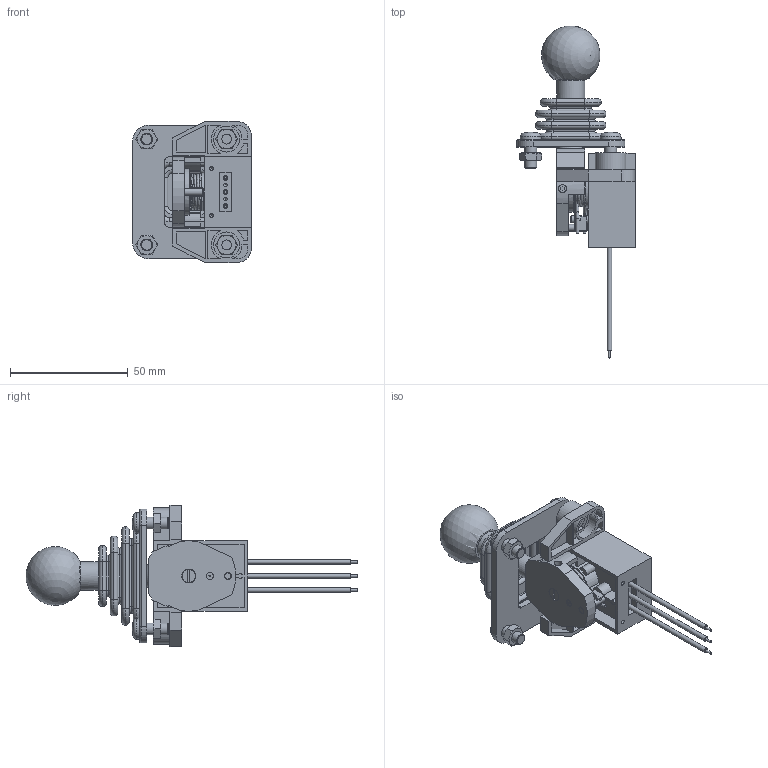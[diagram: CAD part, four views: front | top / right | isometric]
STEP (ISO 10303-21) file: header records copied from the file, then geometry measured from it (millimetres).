
FILE_DESCRIPTION (( 'STEP AP214' ), '1' );
FILE_NAME ('MEGATRON 30JLK-XI-10R1GR.STEP', '2019-06-24T05:29:20', ( '' ), ( '' ), 'SwSTEP 2.0', 'SolidWorks 2018', '' );
FILE_SCHEMA (( 'AUTOMOTIVE_DESIGN' ));
Length unit declared in the file: millimetre
Products named in the file (1): MEGATRON 30JLK-XI-10R1GR
Bounding box: 50.5 x 141.26 x 60 mm (x, y, z)
Volume: 41408.2 mm3; surface area: 43990.9 mm2
Topology: 5 solids, 47 shells, 1739 faces, 4236 edges, 2682 vertices
Faces by surface type: plane 1027, cylinder 441, torus 149, cone 112, sphere 9, bspline 1
Full cylindrical faces by diameter (mm): 0.8 x1, 1 x3, 1.198 x2, 1.2 x12, 1.6 x3, 2 x8, 2.1 x7, 2.3 x4, 2.9 x1, 2.98 x2, 3 x1, 3.1 x1, 3.4 x2, 4.2 x2, 5 x7, 5.1 x2, 5.5 x7, 5.9 x1, 6 x4, 6.2 x1, 7 x1, 7.5 x1, 9 x2, 9.6 x1, 11 x2, 12 x3, 13 x2, 16 x1, 17 x1
Entity records: 51231 total; most frequent: CARTESIAN_POINT 10378, DIRECTION 8874, ORIENTED_EDGE 8054, EDGE_CURVE 4027, AXIS2_PLACEMENT_3D 3302, VERTEX_POINT 2613, VECTOR 2270, LINE 2270
